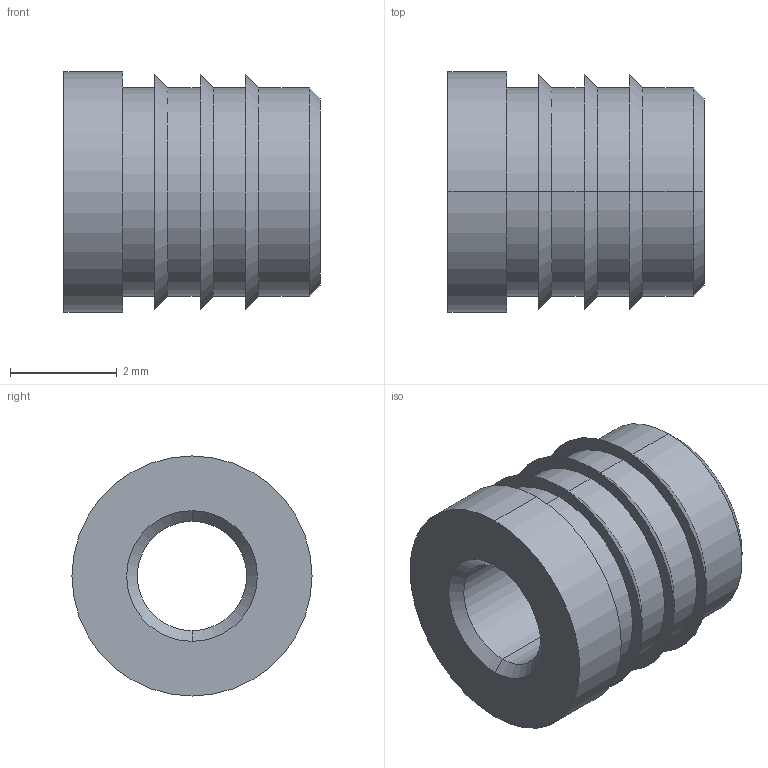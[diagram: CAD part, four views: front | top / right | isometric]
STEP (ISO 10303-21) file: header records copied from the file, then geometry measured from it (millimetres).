
FILE_DESCRIPTION (( 'STEP AP203' ), '1' );
FILE_NAME ('FSUK-PU-M02.5-S.STEP', '2021-04-15T09:36:31', ( '' ), ( '' ), 'SwSTEP 2.0', 'SolidWorks 2021', '' );
FILE_SCHEMA (( 'CONFIG_CONTROL_DESIGN' ));
Length unit declared in the file: millimetre
Products named in the file (1): FSUK-PU-M02.5-S
Bounding box: 4.8 x 4.5 x 4.5 mm (x, y, z)
Volume: 46.5 mm3; surface area: 128.5 mm2
Topology: 1 solids, 1 shells, 30 faces, 60 edges, 36 vertices
Faces by surface type: cone 12, cylinder 12, plane 6
Entity records: 865 total; most frequent: DIRECTION 158, CARTESIAN_POINT 127, ORIENTED_EDGE 120, AXIS2_PLACEMENT_3D 67, EDGE_CURVE 60, CIRCLE 36, EDGE_LOOP 36, VERTEX_POINT 36
